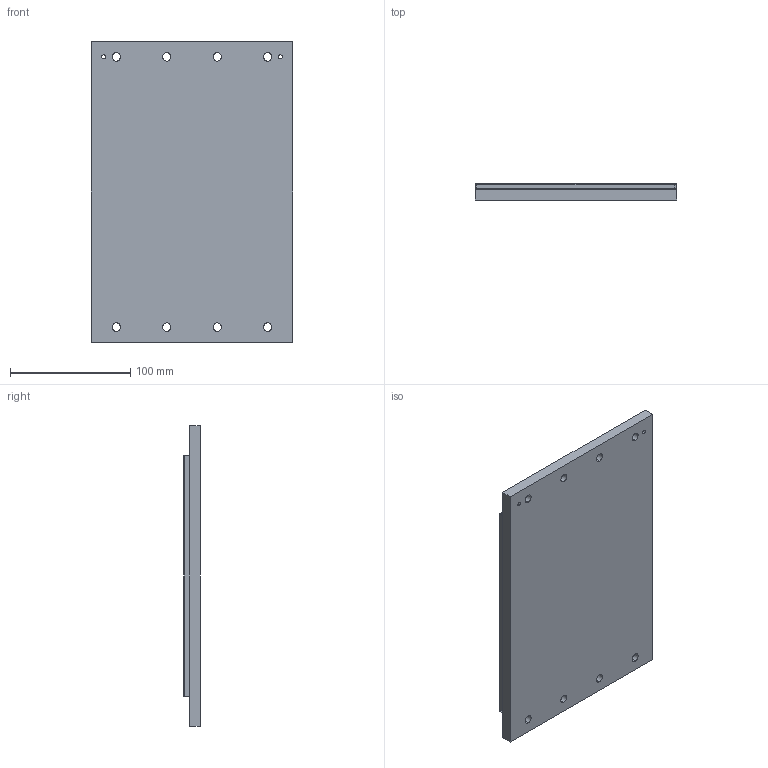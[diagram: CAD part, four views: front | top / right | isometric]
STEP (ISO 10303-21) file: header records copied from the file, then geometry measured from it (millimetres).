
FILE_DESCRIPTION (( 'STEP AP214' ), '1' );
FILE_NAME ('PIXM350-250-TL168-C.step', '2021-11-01T10:03:12', ( '' ), ( '' ), 'SwSTEP 2.0', 'SolidWorks 2020', '' );
FILE_SCHEMA (( 'AUTOMOTIVE_DESIGN' ));
Length unit declared in the file: millimetre
Products named in the file (1): PIXM350-250-TL168-C
Bounding box: 168 x 13.8 x 250 mm (x, y, z)
Volume: 532681.1 mm3; surface area: 232218.3 mm2
Topology: 3 solids, 3 shells, 89 faces, 206 edges, 132 vertices
Faces by surface type: plane 49, cylinder 40
Entity records: 3603 total; most frequent: DIRECTION 466, CARTESIAN_POINT 428, ORIENTED_EDGE 412, EDGE_CURVE 206, AXIS2_PLACEMENT_3D 170, VERTEX_POINT 132, VECTOR 126, LINE 126
